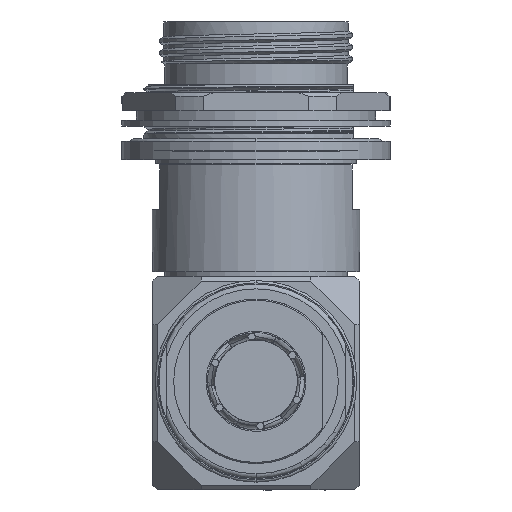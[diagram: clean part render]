
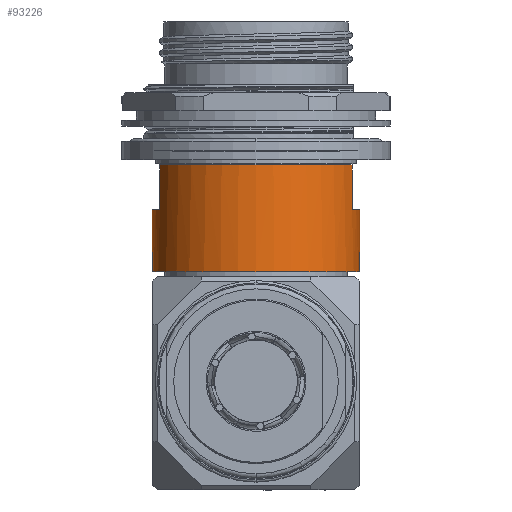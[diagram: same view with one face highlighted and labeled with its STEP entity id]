
A CAD part, front view. The second image highlights one B-rep face of the part: STEP entity #93226.
In plain terms, the highlighted cylindrical face has radius 22.035 mm (diameter 44.069 mm), a partial arc.
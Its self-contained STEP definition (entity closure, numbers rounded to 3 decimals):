
#488 = DIRECTION ( 'NONE',  ( 0., 0., 1. ) ) ;
#793 = VERTEX_POINT ( 'NONE', #123079 ) ;
#6864 = CARTESIAN_POINT ( 'NONE',  ( -22.035, 0., -53.01 ) ) ;
#7707 = ORIENTED_EDGE ( 'NONE', *, *, #81336, .F. ) ;
#12855 = AXIS2_PLACEMENT_3D ( 'NONE', #54093, #121634, #101522 ) ;
#13511 = CARTESIAN_POINT ( 'NONE',  ( 20.383, -8.369, -30.328 ) ) ;
#14345 = CARTESIAN_POINT ( 'NONE',  ( 22.035, 0., -30.328 ) ) ;
#16653 = VERTEX_POINT ( 'NONE', #6864 ) ;
#17030 = CIRCLE ( 'NONE', #12855, 22.035 ) ;
#18274 = CIRCLE ( 'NONE', #94968, 22.035 ) ;
#22810 = DIRECTION ( 'NONE',  ( 0., 0., -1. ) ) ;
#23210 = CARTESIAN_POINT ( 'NONE',  ( -20.384, -8.369, -39.853 ) ) ;
#24168 = CYLINDRICAL_SURFACE ( 'NONE', #122587, 22.035 ) ;
#24454 = CARTESIAN_POINT ( 'NONE',  ( -20.384, -8.369, -30.328 ) ) ;
#24488 = ORIENTED_EDGE ( 'NONE', *, *, #63459, .F. ) ;
#26094 = CARTESIAN_POINT ( 'NONE',  ( 0., 0., -30.328 ) ) ;
#28276 = EDGE_CURVE ( 'NONE', #82342, #29018, #53137, .T. ) ;
#28886 = DIRECTION ( 'NONE',  ( 1., 0., 0. ) ) ;
#29018 = VERTEX_POINT ( 'NONE', #24454 ) ;
#29355 = VERTEX_POINT ( 'NONE', #23210 ) ;
#31493 = EDGE_LOOP ( 'NONE', ( #24488, #122809, #101721, #61406, #66420, #58609, #79375, #7707 ) ) ;
#33984 = EDGE_CURVE ( 'NONE', #793, #16653, #67512, .T. ) ;
#34390 = VECTOR ( 'NONE', #94173, 1000. ) ;
#34412 = DIRECTION ( 'NONE',  ( 0., 0., 1. ) ) ;
#35599 = EDGE_CURVE ( 'NONE', #124214, #106447, #44751, .T. ) ;
#40719 = CARTESIAN_POINT ( 'NONE',  ( 22.035, 0., -53.01 ) ) ;
#41021 = VERTEX_POINT ( 'NONE', #40719 ) ;
#44002 = CARTESIAN_POINT ( 'NONE',  ( 20.383, -8.369, -39.853 ) ) ;
#44751 = CIRCLE ( 'NONE', #67656, 22.035 ) ;
#48039 = DIRECTION ( 'NONE',  ( 0., 0., -1. ) ) ;
#51009 = AXIS2_PLACEMENT_3D ( 'NONE', #71875, #101102, #60217 ) ;
#53137 = CIRCLE ( 'NONE', #51009, 22.035 ) ;
#54093 = CARTESIAN_POINT ( 'NONE',  ( 0., 0., -53.01 ) ) ;
#58609 = ORIENTED_EDGE ( 'NONE', *, *, #79153, .F. ) ;
#60217 = DIRECTION ( 'NONE',  ( 1., 0., 0. ) ) ;
#61406 = ORIENTED_EDGE ( 'NONE', *, *, #78578, .F. ) ;
#63459 = EDGE_CURVE ( 'NONE', #793, #29355, #18274, .T. ) ;
#63662 = LINE ( 'NONE', #14345, #119365 ) ;
#63753 = DIRECTION ( 'NONE',  ( 0., 0., -1. ) ) ;
#64390 = DIRECTION ( 'NONE',  ( 1., 0., 0. ) ) ;
#65520 = VECTOR ( 'NONE', #48039, 1000. ) ;
#66420 = ORIENTED_EDGE ( 'NONE', *, *, #35599, .F. ) ;
#67512 = LINE ( 'NONE', #99292, #65520 ) ;
#67656 = AXIS2_PLACEMENT_3D ( 'NONE', #76293, #115876, #28886 ) ;
#71875 = CARTESIAN_POINT ( 'NONE',  ( 0., 0., -30.328 ) ) ;
#72336 = CARTESIAN_POINT ( 'NONE',  ( 22.035, 0., -39.853 ) ) ;
#76293 = CARTESIAN_POINT ( 'NONE',  ( 0., 0., -39.853 ) ) ;
#76617 = LINE ( 'NONE', #116201, #34390 ) ;
#78578 = EDGE_CURVE ( 'NONE', #106447, #41021, #63662, .T. ) ;
#79153 = EDGE_CURVE ( 'NONE', #82342, #124214, #76617, .T. ) ;
#79375 = ORIENTED_EDGE ( 'NONE', *, *, #28276, .T. ) ;
#81336 = EDGE_CURVE ( 'NONE', #29355, #29018, #99168, .T. ) ;
#82342 = VERTEX_POINT ( 'NONE', #13511 ) ;
#89429 = CARTESIAN_POINT ( 'NONE',  ( -20.383, -8.369, -30.328 ) ) ;
#92998 = FACE_OUTER_BOUND ( 'NONE', #31493, .T. ) ;
#93226 = ADVANCED_FACE ( 'NONE', ( #92998 ), #24168, .T. ) ;
#94173 = DIRECTION ( 'NONE',  ( 0., 0., -1. ) ) ;
#94774 = CARTESIAN_POINT ( 'NONE',  ( 0., 0., -39.853 ) ) ;
#94968 = AXIS2_PLACEMENT_3D ( 'NONE', #94774, #34412, #114887 ) ;
#99168 = LINE ( 'NONE', #89429, #116198 ) ;
#99292 = CARTESIAN_POINT ( 'NONE',  ( -22.035, 0., -30.328 ) ) ;
#101102 = DIRECTION ( 'NONE',  ( 0., 0., -1. ) ) ;
#101522 = DIRECTION ( 'NONE',  ( 1., 0., 0. ) ) ;
#101721 = ORIENTED_EDGE ( 'NONE', *, *, #122078, .F. ) ;
#106447 = VERTEX_POINT ( 'NONE', #72336 ) ;
#114887 = DIRECTION ( 'NONE',  ( 0., 1., 0. ) ) ;
#115876 = DIRECTION ( 'NONE',  ( 0., 0., 1. ) ) ;
#116198 = VECTOR ( 'NONE', #488, 1000. ) ;
#116201 = CARTESIAN_POINT ( 'NONE',  ( 20.383, -8.369, -30.328 ) ) ;
#119365 = VECTOR ( 'NONE', #22810, 1000. ) ;
#121634 = DIRECTION ( 'NONE',  ( 0., 0., -1. ) ) ;
#122078 = EDGE_CURVE ( 'NONE', #41021, #16653, #17030, .T. ) ;
#122587 = AXIS2_PLACEMENT_3D ( 'NONE', #26094, #63753, #64390 ) ;
#122809 = ORIENTED_EDGE ( 'NONE', *, *, #33984, .T. ) ;
#123079 = CARTESIAN_POINT ( 'NONE',  ( -22.035, 0., -39.853 ) ) ;
#124214 = VERTEX_POINT ( 'NONE', #44002 ) ;
